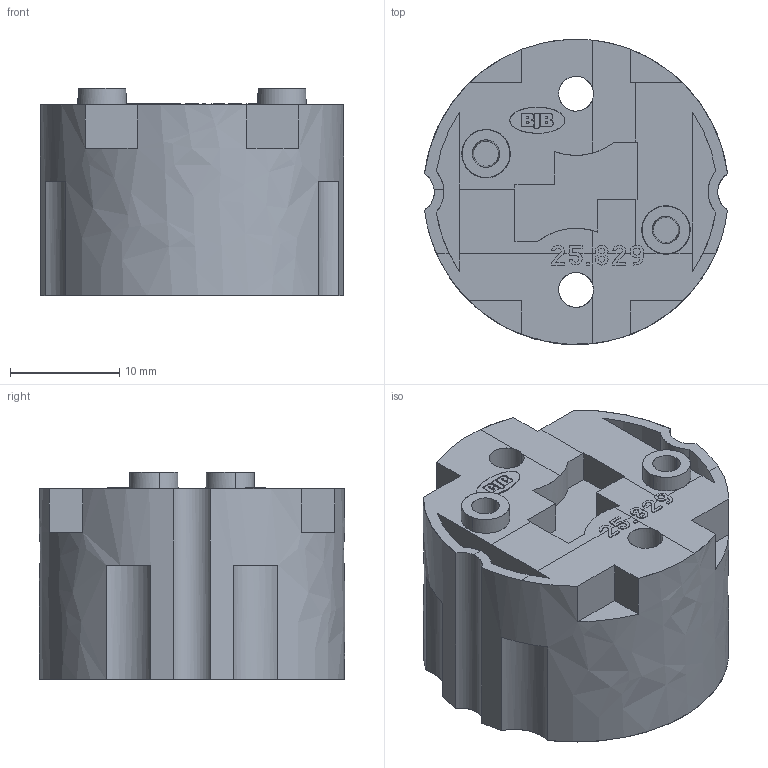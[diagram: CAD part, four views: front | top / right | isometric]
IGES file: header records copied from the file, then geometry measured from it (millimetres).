
Start section: Surface Model. Bezier boundary curves.
Global section: file name: 00UYE03Z01.igs; native system: TRANS-3D by CORETECH International; preprocessor: 2.1; date: 020429.072954; units: millimetre
Bounding box: 27.8 x 28 x 19 mm (x, y, z)
Surface area: 4255.3 mm2 (no closed solid volume)
Topology: 0 solids, 0 shells, 332 faces, 2061 edges, 2061 vertices
Faces by surface type: bspline 332
